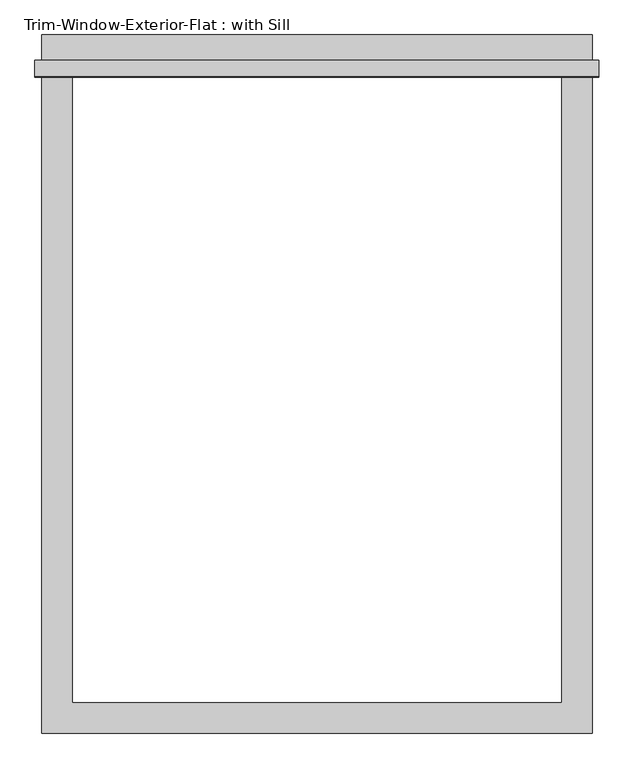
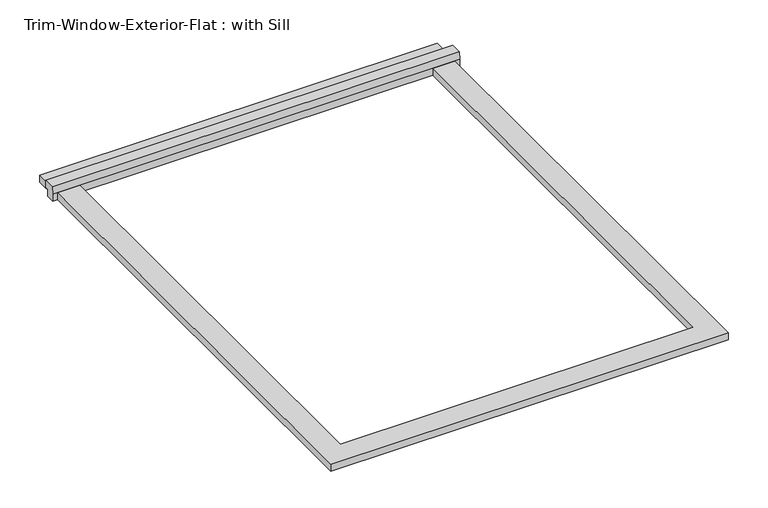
"""IFC4 building model written with IfcOpenShell, lengths in millimetres: proxy geometry, Trim-Window-Exterior-Flat : with Sill."""

from ifc_helpers import new_model, si_unit, frame, origin, origin_with_axes, place, context, project, spatial, polyline, outline, extrude, source, transform, mapped, element, save


def trim_window_exterior_flat_with_sill_1e2c9110(model_context):
    return source(origin(), model_context, "Body", "SweptSolid", [
        extrude(outline(polyline([(514.35, 1190.5823709), (-514.35, 1190.5823709), (-514.35, 1247.7323709), (514.35, 1247.7323709), (514.35, 1190.5823709)])), origin_with_axes(), (0.0, 0.0, 1.0), 19.05),
        extrude(outline(polyline([(1200.15, 38.1), (1200.15, 19.05), (1190.5823709, 19.05), (1190.5823709, 0.0), (1168.4, 0.0), (1168.4, 19.05), (1170.8580645, 38.1), (1200.15, 38.1)])), frame((-527.05, 0.0, 0.0), z_axis=(1.0, 0.0, 0.0), x_axis=(0.0, 1.0, 0.0)), (0.0, 0.0, 1.0), 1054.1),
        extrude(outline(polyline([(-514.35, -57.15), (-514.35, 1168.4), (-457.2, 1168.4), (-457.2, 0.0), (457.2, 0.0), (457.2, 1168.4), (514.35, 1168.4), (514.35, -57.15), (-514.35, -57.15)])), origin_with_axes(), (0.0, 0.0, 1.0), 19.05),
    ])


if __name__ == "__main__":
    model = new_model("IFC4")
    model_context = context("Model", 3, world=origin())
    ifc_project = project(units=[si_unit("LENGTHUNIT", "METRE", prefix="MILLI")], contexts=[model_context])
    site = spatial("IfcSite", under=ifc_project)
    building = spatial("IfcBuilding", under=site)
    placement = place(None, origin())
    trim_window_exterior_flat_with_sill_shape = trim_window_exterior_flat_with_sill_1e2c9110(model_context)
    element("IfcBuildingElementProxy", 1, Name="Trim-Window-Exterior-Flat : with Sill", ObjectType="Trim-Window-Exterior-Flat : with Sill", at=placement, inside=building, context=model_context, shape_type="MappedRepresentation", body=[
        mapped(trim_window_exterior_flat_with_sill_shape, transform((0.0, 0.0, 0.0), x_axis=(1.0, 0.0, 0.0), y_axis=(0.0, 1.0, 0.0), z_axis=(0.0, 0.0, 1.0))),
    ])
    save(model, "model.ifc")
